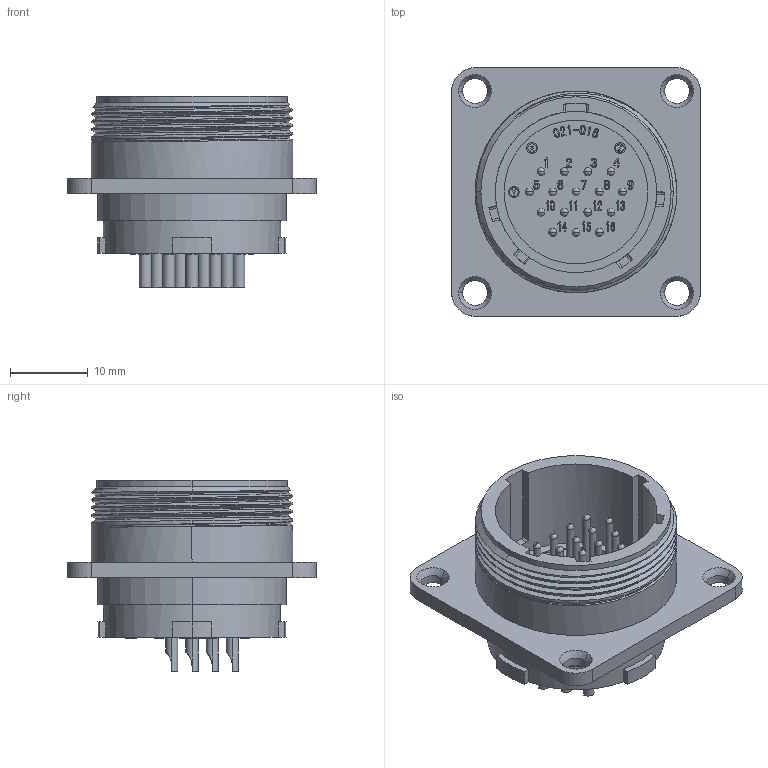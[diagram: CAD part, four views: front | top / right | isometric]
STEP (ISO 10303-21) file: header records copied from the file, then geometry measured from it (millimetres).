
FILE_DESCRIPTION (( 'STEP AP203' ), '1' );
FILE_NAME ('JMR2116M-D.STEP', '2018-10-17T01:56:55', ( '' ), ( '' ), 'SwSTEP 2.0', 'SolidWorks 2018', '' );
FILE_SCHEMA (( 'CONFIG_CONTROL_DESIGN' ));
Length unit declared in the file: millimetre
Products named in the file (1): JMR2116M-D
Bounding box: 32 x 32 x 24.6 mm (x, y, z)
Volume: 6358.1 mm3; surface area: 5972.5 mm2
Topology: 1 solids, 1 shells, 1397 faces, 3802 edges, 2466 vertices
Faces by surface type: bspline 581, plane 551, cylinder 191, cone 42, sphere 32
Entity records: 61537 total; most frequent: CARTESIAN_POINT 30634, ORIENTED_EDGE 7412, DIRECTION 4447, EDGE_CURVE 3706, VERTEX_POINT 2434, LINE 2129, VECTOR 2129, EDGE_LOOP 1528
